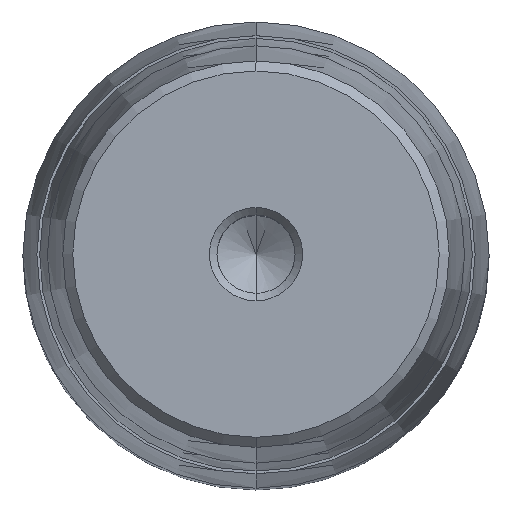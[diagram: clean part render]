
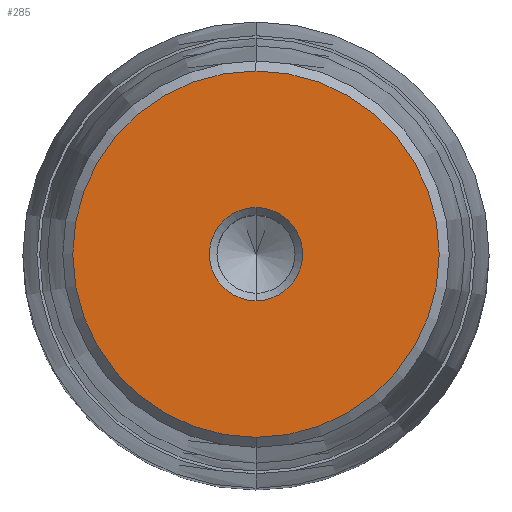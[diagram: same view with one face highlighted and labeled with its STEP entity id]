
A CAD part, top view. The second image highlights one B-rep face of the part: STEP entity #285.
In plain terms, the highlighted planar face has unit normal (0, 0, 1).
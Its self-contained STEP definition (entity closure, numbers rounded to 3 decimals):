
#164=CARTESIAN_POINT('Axis2P3D Location',(0.,0.,58.)) ;
#168=CARTESIAN_POINT('Vertex',(5.,0.,58.)) ;
#170=CARTESIAN_POINT('Vertex',(0.,-5.,58.)) ;
#173=CARTESIAN_POINT('Axis2P3D Location',(0.,0.,58.)) ;
#177=CARTESIAN_POINT('Vertex',(0.,5.,58.)) ;
#228=CARTESIAN_POINT('Axis2P3D Location',(0.,5.,58.)) ;
#233=CARTESIAN_POINT('Axis2P3D Location',(0.,0.,58.)) ;
#237=CARTESIAN_POINT('Vertex',(0.,19.65,58.)) ;
#239=CARTESIAN_POINT('Vertex',(19.65,0.,58.)) ;
#242=CARTESIAN_POINT('Axis2P3D Location',(0.,0.,58.)) ;
#246=CARTESIAN_POINT('Vertex',(-19.65,0.,58.)) ;
#249=CARTESIAN_POINT('Axis2P3D Location',(0.,0.,58.)) ;
#253=CARTESIAN_POINT('Vertex',(0.,-19.65,58.)) ;
#256=CARTESIAN_POINT('Axis2P3D Location',(0.,0.,58.)) ;
#267=CARTESIAN_POINT('Axis2P3D Location',(0.,0.,58.)) ;
#271=CARTESIAN_POINT('Vertex',(-5.,0.,58.)) ;
#274=CARTESIAN_POINT('Axis2P3D Location',(0.,0.,58.)) ;
#165=DIRECTION('Axis2P3D Direction',(0.,0.,1.)) ;
#174=DIRECTION('Axis2P3D Direction',(0.,0.,1.)) ;
#229=DIRECTION('Axis2P3D Direction',(-0.,0.,-1.)) ;
#230=DIRECTION('Axis2P3D XDirection',(0.,1.,0.)) ;
#234=DIRECTION('Axis2P3D Direction',(-0.,0.,-1.)) ;
#243=DIRECTION('Axis2P3D Direction',(-0.,0.,-1.)) ;
#250=DIRECTION('Axis2P3D Direction',(-0.,0.,-1.)) ;
#257=DIRECTION('Axis2P3D Direction',(-0.,0.,-1.)) ;
#268=DIRECTION('Axis2P3D Direction',(-0.,0.,-1.)) ;
#275=DIRECTION('Axis2P3D Direction',(-0.,0.,-1.)) ;
#166=AXIS2_PLACEMENT_3D('Circle Axis2P3D',#164,#165,$) ;
#175=AXIS2_PLACEMENT_3D('Circle Axis2P3D',#173,#174,$) ;
#231=AXIS2_PLACEMENT_3D('Plane Axis2P3D',#228,#229,#230) ;
#235=AXIS2_PLACEMENT_3D('Circle Axis2P3D',#233,#234,$) ;
#244=AXIS2_PLACEMENT_3D('Circle Axis2P3D',#242,#243,$) ;
#251=AXIS2_PLACEMENT_3D('Circle Axis2P3D',#249,#250,$) ;
#258=AXIS2_PLACEMENT_3D('Circle Axis2P3D',#256,#257,$) ;
#269=AXIS2_PLACEMENT_3D('Circle Axis2P3D',#267,#268,$) ;
#276=AXIS2_PLACEMENT_3D('Circle Axis2P3D',#274,#275,$) ;
#262=ORIENTED_EDGE('',*,*,#241,.F.) ;
#263=ORIENTED_EDGE('',*,*,#248,.F.) ;
#264=ORIENTED_EDGE('',*,*,#255,.F.) ;
#265=ORIENTED_EDGE('',*,*,#260,.F.) ;
#280=ORIENTED_EDGE('',*,*,#172,.T.) ;
#281=ORIENTED_EDGE('',*,*,#273,.T.) ;
#282=ORIENTED_EDGE('',*,*,#278,.T.) ;
#283=ORIENTED_EDGE('',*,*,#179,.T.) ;
#284=FACE_BOUND('',#279,.T.) ;
#285=ADVANCED_FACE('722-50x140x180',(#266,#284),#232,.F.) ;
#167=CIRCLE('generated circle',#166,5.) ;
#176=CIRCLE('generated circle',#175,5.) ;
#236=CIRCLE('generated circle',#235,19.65) ;
#245=CIRCLE('generated circle',#244,19.65) ;
#252=CIRCLE('generated circle',#251,19.65) ;
#259=CIRCLE('generated circle',#258,19.65) ;
#270=CIRCLE('generated circle',#269,5.) ;
#277=CIRCLE('generated circle',#276,5.) ;
#172=EDGE_CURVE('',#169,#171,#167,.F.) ;
#179=EDGE_CURVE('',#178,#169,#176,.F.) ;
#241=EDGE_CURVE('',#238,#240,#236,.T.) ;
#248=EDGE_CURVE('',#247,#238,#245,.T.) ;
#255=EDGE_CURVE('',#254,#247,#252,.T.) ;
#260=EDGE_CURVE('',#240,#254,#259,.T.) ;
#273=EDGE_CURVE('',#171,#272,#270,.T.) ;
#278=EDGE_CURVE('',#272,#178,#277,.T.) ;
#261=EDGE_LOOP('',(#262,#263,#264,#265)) ;
#279=EDGE_LOOP('',(#280,#281,#282,#283)) ;
#266=FACE_OUTER_BOUND('',#261,.T.) ;
#232=PLANE('Plane',#231) ;
#169=VERTEX_POINT('',#168) ;
#171=VERTEX_POINT('',#170) ;
#178=VERTEX_POINT('',#177) ;
#238=VERTEX_POINT('',#237) ;
#240=VERTEX_POINT('',#239) ;
#247=VERTEX_POINT('',#246) ;
#254=VERTEX_POINT('',#253) ;
#272=VERTEX_POINT('',#271) ;
